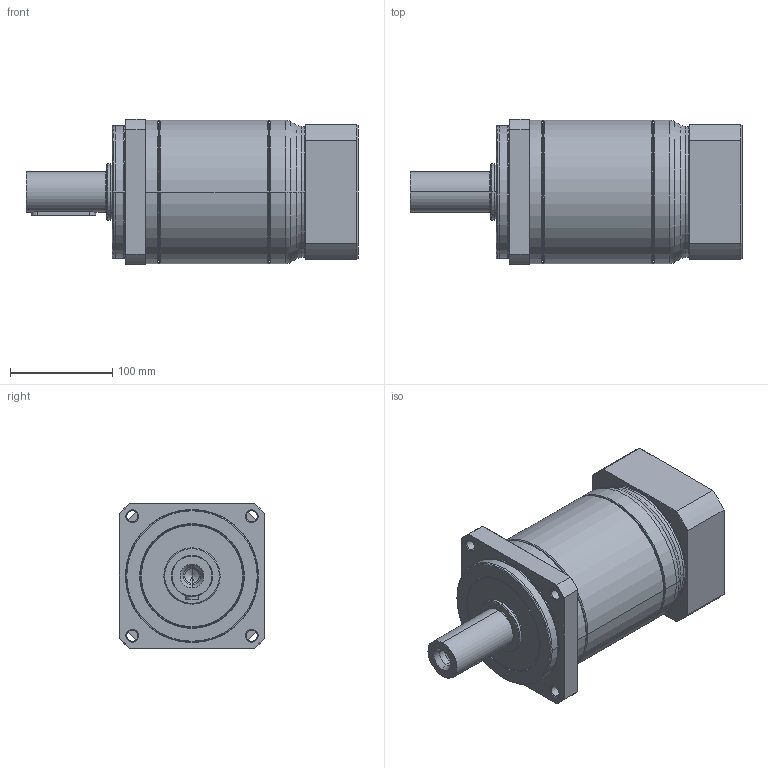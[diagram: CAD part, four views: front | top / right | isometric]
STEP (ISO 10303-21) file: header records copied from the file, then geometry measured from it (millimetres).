
FILE_DESCRIPTION((''),'2;1');
FILE_NAME('PA2-142_2ST_35-P0411800101_ASM','2016-05-11T',('d01943'),(''),'PRO/ENGINEER BY PARAMETRIC TECHNOLOGY CORPORATION, 2008410','PRO/ENGINEER BY PARAMETRIC TECHNOLOGY CORPORATION, 2008410','');
FILE_SCHEMA(('CONFIG_CONTROL_DESIGN'));
Length unit declared in the file: millimetre
Products named in the file (9): P1327510001; P0251500001; P1324500401; P0350500601; P0941504001; P0503800010; P0411800101; P1702600001; PA2-142_2ST_35-P0411800101_ASM
Assembly tree (8 placements, depth 2):
  PA2-142_2ST_35-P0411800101_ASM
    P1327510001
    P0251500001
    P1324500401
    P0350500601
    P0941504001
    P0503800010
    P0411800101
    P1702600001
Bounding box: 324.5 x 142 x 142 mm (x, y, z)
Volume: 2570883.3 mm3; surface area: 388508.9 mm2
Topology: 8 solids, 8 shells, 469 faces, 1024 edges, 590 vertices
Faces by surface type: cone 146, cylinder 133, torus 88, plane 86, bspline 16
Entity records: 17512 total; most frequent: CARTESIAN_POINT 6970, DIRECTION 2386, ORIENTED_EDGE 2008, AXIS2_PLACEMENT_3D 1017, EDGE_CURVE 1004, VERTEX_POINT 590, CIRCLE 547, EDGE_LOOP 532
